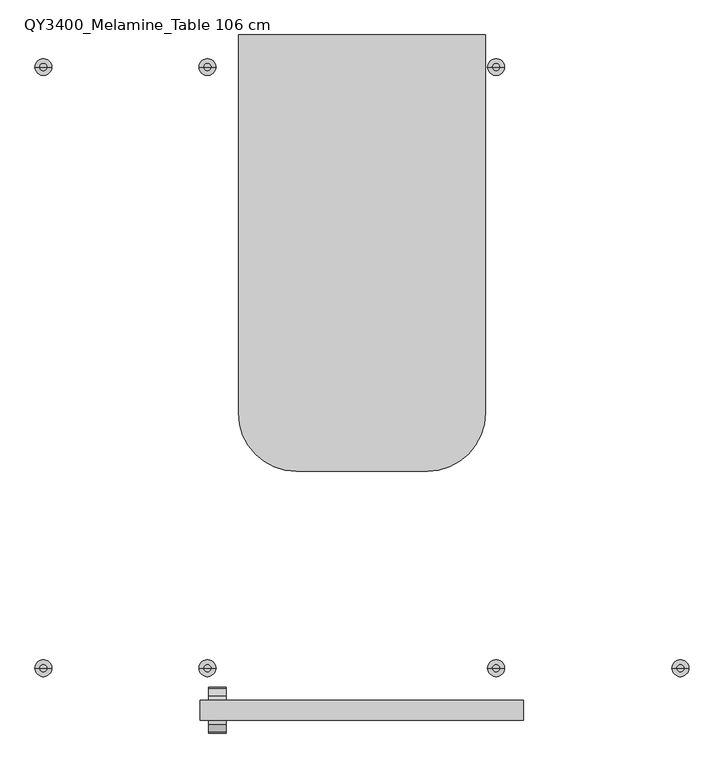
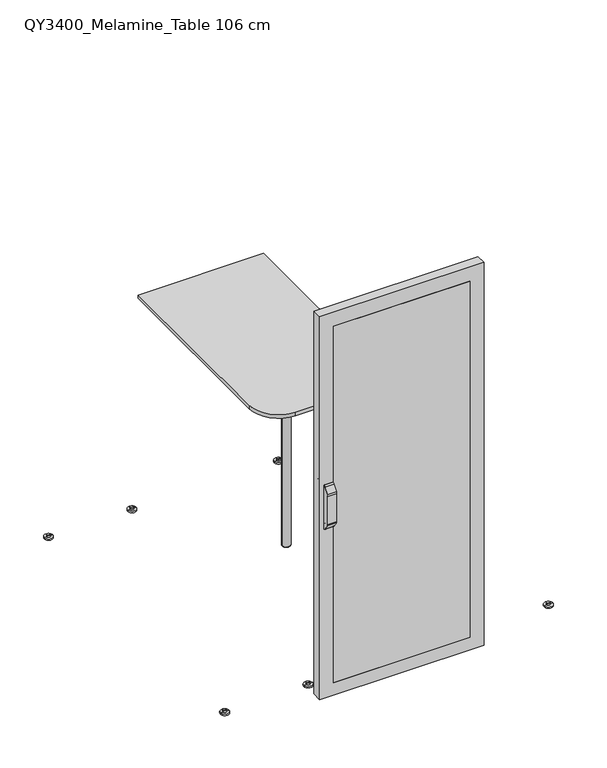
"""IFC4 building model written with IfcOpenShell, lengths in millimetres: furniture geometry, Qyos_400 : QY3400_Melamine_Table 106 cm."""

from ifc_helpers import new_model, si_unit, point, frame, frame_2d, origin, origin_with_axes, place, context, project, spatial, polyline, circle_curve, ellipse_curve, trimmed, segment, composite_curve, outline, extrude, source, transform, mapped, element, save
from ifc_brep_helpers import plane_surface, cylinder_surface, revolved_surface, advanced_brep


def qy3400_melamine_table_106_cm_9113aa5f(model_context):
    return source(origin(), model_context, "Body", "SolidModel", [
        advanced_brep(
        [(-374.085107, -970.6314016, 980.9779398), (-374.085107, -970.6314016, 985.9647191), (-374.085107, -982.9469969, 991.7354618), (-374.085107, -1000.0438473, 1019.0961419), (-374.085107, -1002.6320377, 1028.7554001), (-374.085107, -1002.6320377, 1173.7554001), (-374.085107, -998.2020658, 1196.5456299), (-374.085107, -981.4262787, 1221.4167571), (-374.085107, -970.6314016, 1224.0702851), (-374.085107, -970.6314016, 1230.9669096), (-374.085107, -982.162848, 1226.3079029), (-374.085107, -1002.7819627, 1194.5572505), (-374.085107, -1005.5, 1186.1919919), (-374.085107, -1005.5, 1025.2), (-374.085107, -1002.5610872, 1017.1254034), (-374.085107, -982.1968679, 985.7672556), (-422.0329647, -970.6314016, 1230.9669096), (-422.0329647, -970.6314016, 980.9779398), (-422.0329647, -982.1968679, 985.7672556), (-422.0329647, -1002.5610872, 1017.1254034), (-422.0329647, -1005.5, 1025.2), (-422.0329647, -1005.5, 1186.1919919), (-422.0329647, -1002.7819627, 1194.5572505), (-422.0329647, -982.162848, 1226.3079029), (-419.3636893, -970.6314016, 1224.0702851), (-419.3636893, -970.6314016, 985.9647191), (-419.3636893, -982.9469969, 991.7354618), (-419.3636893, -981.4262787, 1221.4167571), (-419.3636893, -998.2020658, 1196.5456299), (-419.3636893, -1002.6320377, 1173.7554001), (-419.3636893, -1002.6320377, 1028.7554001), (-419.3636893, -1000.0438473, 1019.0961419)],
        [
            (0, 1),
            (1, 2, circle_curve(frame((-374.085107, -970.4805644, 1002.3136249), z_axis=(-1.0, 0.0, 0.0), x_axis=(0.0, -1.0, 0.0)), 16.3496016)),
            (2, 3, circle_curve(frame((-374.085107, 675.4570487, 2047.0433119), z_axis=(-1.0, 0.0, 0.0), x_axis=(0.0, -1.0, 0.0)), 1965.7005461)),
            (3, 4, circle_curve(frame((-374.085107, -985.0644692, 1028.286235), z_axis=(-1.0, 0.0, 0.0), x_axis=(0.0, -1.0, 0.0)), 17.5738323)),
            (4, 5),
            (5, 6, circle_curve(frame((-374.085107, -941.7942676, 1173.7554001), z_axis=(-1.0, 0.0, 0.0), x_axis=(0.0, -1.0, 0.0)), 60.8377701)),
            (6, 7, circle_curve(frame((-374.085107, -1257.3576761, 1389.4415655), z_axis=(1.0, 0.0, 0.0), x_axis=(0.0, -1.0, 0.0)), 323.0641922)),
            (7, 8, circle_curve(frame((-374.085107, -970.6314016, 1200.7860796), z_axis=(-1.0, 0.0, 0.0), x_axis=(0.0, -1.0, 0.0)), 23.2842055)),
            (8, 9),
            (9, 10, circle_curve(frame((-374.085107, -972.4087289, 1218.7657801), z_axis=(1.0, 0.0, 0.0), x_axis=(0.0, -1.0, 0.0)), 12.3299009)),
            (10, 11, circle_curve(frame((-374.085107, -373.9237769, 808.7424006), z_axis=(1.0, 0.0, 0.0), x_axis=(0.0, -1.0, 0.0)), 737.777552)),
            (11, 12, circle_curve(frame((-374.085107, -986.7589098, 1184.7268438), z_axis=(1.0, 0.0, 0.0), x_axis=(0.0, -1.0, 0.0)), 18.7982744)),
            (12, 13),
            (13, 14, circle_curve(frame((-374.085107, -958.525418, 1037.7252129), z_axis=(1.0, 0.0, 0.0), x_axis=(0.0, -1.0, 0.0)), 48.615762)),
            (14, 15, circle_curve(frame((-374.085107, -605.5394908, 1252.6628295), z_axis=(1.0, 0.0, 0.0), x_axis=(0.0, -1.0, 0.0)), 461.6319174)),
            (15, 0, circle_curve(frame((-374.085107, -972.6091735, 992.560998), z_axis=(1.0, 0.0, 0.0), x_axis=(0.0, -1.0, 0.0)), 11.7506945)),
            (16, 17),
            (17, 18, circle_curve(frame((-422.0329647, -972.6091735, 992.560998), z_axis=(-1.0, 0.0, 0.0), x_axis=(0.0, -1.0, 0.0)), 11.7506945)),
            (18, 19, circle_curve(frame((-422.0329647, -605.5394908, 1252.6628295), z_axis=(-1.0, 0.0, 0.0), x_axis=(0.0, -1.0, 0.0)), 461.6319174)),
            (19, 20, circle_curve(frame((-422.0329647, -958.525418, 1037.7252129), z_axis=(-1.0, 0.0, 0.0), x_axis=(0.0, -1.0, 0.0)), 48.615762)),
            (20, 21),
            (21, 22, circle_curve(frame((-422.0329647, -986.7589098, 1184.7268438), z_axis=(-1.0, 0.0, 0.0), x_axis=(0.0, -1.0, 0.0)), 18.7982744)),
            (22, 23, circle_curve(frame((-422.0329647, -373.9237769, 808.7424006), z_axis=(-1.0, 0.0, 0.0), x_axis=(0.0, -1.0, 0.0)), 737.777552)),
            (23, 16, circle_curve(frame((-422.0329647, -972.4087289, 1218.7657801), z_axis=(-1.0, 0.0, 0.0), x_axis=(0.0, -1.0, 0.0)), 12.3299009)),
            (16, 9),
            (8, 24),
            (24, 25),
            (25, 1),
            (0, 17),
            (15, 18),
            (14, 19),
            (13, 20),
            (12, 21),
            (11, 22),
            (10, 23),
            (26, 25, circle_curve(frame((-419.3636893, -970.4805644, 1002.3136249), z_axis=(1.0, 0.0, 0.0), x_axis=(0.0, -1.0, 0.0)), 16.3496016)),
            (24, 27, circle_curve(frame((-419.3636893, -970.6314016, 1200.7860796), z_axis=(1.0, 0.0, 0.0), x_axis=(0.0, -1.0, 0.0)), 23.2842055)),
            (27, 28, circle_curve(frame((-419.3636893, -1257.3576761, 1389.4415655), z_axis=(-1.0, 0.0, 0.0), x_axis=(0.0, -1.0, 0.0)), 323.0641922)),
            (28, 29, circle_curve(frame((-419.3636893, -941.7942676, 1173.7554001), z_axis=(1.0, 0.0, 0.0), x_axis=(0.0, -1.0, 0.0)), 60.8377701)),
            (29, 30),
            (30, 31, circle_curve(frame((-419.3636893, -985.0644692, 1028.286235), z_axis=(1.0, 0.0, 0.0), x_axis=(0.0, -1.0, 0.0)), 17.5738323)),
            (31, 26, circle_curve(frame((-419.3636893, 675.4570487, 2047.0433119), z_axis=(1.0, 0.0, 0.0), x_axis=(0.0, -1.0, 0.0)), 1965.7005461)),
            (26, 2),
            (31, 3),
            (30, 4),
            (29, 5),
            (28, 6),
            (27, 7),
        ],
        [
            plane_surface(frame((-374.085107, -970.6314016, 980.9779398), z_axis=(1.0, 0.0, 0.0), x_axis=(0.0, 0.0, -1.0))),
            plane_surface(frame((-422.0329647, -970.6314016, 980.9779398), z_axis=(-1.0, 0.0, 0.0), x_axis=(0.0, 0.0, 1.0))),
            plane_surface(frame((-374.085107, -970.6314016, 1230.9669096), z_axis=(0.0, 1.0, 0.0), x_axis=(-1.0, 0.0, 0.0))),
            cylinder_surface(frame((-422.0329647, -972.6091735, 992.560998), z_axis=(1.0, 0.0, 0.0), x_axis=(0.0, -1.0, 0.0)), 11.7506945),
            cylinder_surface(frame((-422.0329647, -605.5394908, 1252.6628295), z_axis=(1.0, 0.0, 0.0), x_axis=(0.0, -1.0, 0.0)), 461.6319174),
            cylinder_surface(frame((-422.0329647, -958.525418, 1037.7252129), z_axis=(1.0, 0.0, 0.0), x_axis=(0.0, -1.0, 0.0)), 48.615762),
            plane_surface(frame((-374.085107, -1005.5, 1025.2), z_axis=(0.0, -1.0, 0.0), x_axis=(-1.0, 0.0, 0.0))),
            cylinder_surface(frame((-422.0329647, -986.7589098, 1184.7268438), z_axis=(1.0, 0.0, 0.0), x_axis=(0.0, -1.0, 0.0)), 18.7982744),
            cylinder_surface(frame((-422.0329647, -373.9237769, 808.7424006), z_axis=(1.0, 0.0, 0.0), x_axis=(0.0, -1.0, 0.0)), 737.777552),
            cylinder_surface(frame((-422.0329647, -972.4087289, 1218.7657801), z_axis=(1.0, 0.0, 0.0), x_axis=(0.0, -1.0, 0.0)), 12.3299009),
            plane_surface(frame((-419.3636893, -956.7185794, 1224.0702851), z_axis=(1.0, 0.0, 0.0), x_axis=(0.0, 0.0, 1.0))),
            revolved_surface(polyline([(-374.085107, -986.8301660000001, 1002.3136249), (-419.3636893, -986.8301660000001, 1002.3136249)]), (-419.3636893, -970.4805644, 1002.3136249), (1.0, 0.0, 0.0)),
            revolved_surface(polyline([(-374.085107, -1290.2434974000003, 2047.0433119), (-419.3636893, -1290.2434974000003, 2047.0433119)]), (-419.3636893, 675.4570487, 2047.0433119), (1.0, 0.0, 0.0)),
            revolved_surface(polyline([(-374.085107, -1002.6383015, 1028.286235), (-419.3636893, -1002.6383015, 1028.286235)]), (-419.3636893, -985.0644692, 1028.286235), (1.0, 0.0, 0.0)),
            plane_surface(frame((-366.879078, -1002.6320377, 1028.7554001), z_axis=(0.0, 1.0, 0.0), x_axis=(-1.0, 0.0, 0.0))),
            revolved_surface(polyline([(-374.085107, -1002.6320377, 1173.7554001), (-419.3636893, -1002.6320377, 1173.7554001)]), (-419.3636893, -941.7942676, 1173.7554001), (1.0, 0.0, 0.0)),
            cylinder_surface(frame((-419.3636893, -1257.3576761, 1389.4415655), z_axis=(-1.0, 0.0, 0.0), x_axis=(0.0, -1.0, 0.0)), 323.0641922),
            revolved_surface(polyline([(-374.085107, -993.9156071, 1200.7860796), (-419.3636893, -993.9156071, 1200.7860796)]), (-419.3636893, -970.6314016, 1200.7860796), (1.0, 0.0, 0.0)),
        ],
        [
            (0, [[1, 2, 3, 4, 5, 6, 7, 8, 9, 10, 11, 12, 13, 14, 15, 16]]),
            (1, [[17, 18, 19, 20, 21, 22, 23, 24]]),
            (2, [[25, -9, 26, 27, 28, -1, 29, -17]]),
            (3, [[30, -18, -29, -16]]),
            (4, [[31, -19, -30, -15]]),
            (5, [[32, -20, -31, -14]]),
            (6, [[33, -21, -32, -13]]),
            (7, [[34, -22, -33, -12]]),
            (8, [[35, -23, -34, -11]]),
            (9, [[-25, -24, -35, -10]]),
            (10, [[36, -27, 37, 38, 39, 40, 41, 42]]),
            (11, [[43, -2, -28, -36]]),
            (12, [[44, -3, -43, -42]]),
            (13, [[45, -4, -44, -41]]),
            (14, [[46, -5, -45, -40]]),
            (15, [[47, -6, -46, -39]]),
            (16, [[48, -7, -47, -38]]),
            (17, [[-26, -8, -48, -37]]),
        ],
    ),
        extrude(outline(composite_curve([segment(polyline([(1230.9669096, -377.0853832), (1230.9669096, -417.0486701)]), True, "CONTINUOUS"), segment(trimmed(circle_curve(frame_2d((1225.973762, -417.0486701)), 4.9931477), [point((1230.9669096, -417.0486701))], [point((1225.973762, -422.0418178))], False, "CARTESIAN"), True, "CONTINUOUS"), segment(polyline([(1225.973762, -422.0418178), (985.9710874, -422.0418178)]), True, "CONTINUOUS"), segment(trimmed(circle_curve(frame_2d((985.9710874, -417.0486701)), 4.9931477), [point((985.9710874, -422.0418178))], [point((980.9779398, -417.0486701))], False, "CARTESIAN"), True, "CONTINUOUS"), segment(polyline([(980.9779398, -417.0486701), (980.9779398, -377.0831887)]), True, "CONTINUOUS"), segment(trimmed(circle_curve(frame_2d((983.9760215, -377.0831887)), 2.9980817), [point((980.9779398, -377.0831887))], [point((983.9760215, -374.085107))], False, "CARTESIAN"), True, "CONTINUOUS"), segment(polyline([(983.9760215, -374.085107), (985.9777208, -374.085107)]), True, "CONTINUOUS"), segment(trimmed(circle_curve(frame_2d((985.9777208, -376.3357001)), 2.2505931), [point((985.9777208, -374.085107))], [point((988.1941223, -375.9448887))], False, "CARTESIAN"), True, "CONTINUOUS"), segment(trimmed(circle_curve(frame_2d((1002.686839, -375.1402608)), 14.5150358), [point((988.1941223, -375.9448887))], [point((999.6402401, -389.331966))], True, "CARTESIAN"), True, "CONTINUOUS"), segment(trimmed(circle_curve(frame_2d((999.3564071, -397.3512428)), 8.0242982), [point((999.6402401, -389.331966))], [point((1007.3803501, -397.4267349))], False, "CARTESIAN"), True, "CONTINUOUS"), segment(trimmed(circle_curve(frame_2d((984.8527266, -400.9632944)), 22.803532), [point((1007.3803501, -397.4267349))], [point((1007.3098217, -404.9230861))], False, "CARTESIAN"), True, "CONTINUOUS"), segment(trimmed(circle_curve(frame_2d((1018.7344643, -406.9375589)), 11.600886), [point((1007.3098217, -404.9230861))], [point((1018.7344643, -418.5384449))], True, "CARTESIAN"), True, "CONTINUOUS"), segment(polyline([(1018.7344643, -418.5384449), (1193.2103851, -418.5384449)]), True, "CONTINUOUS"), segment(trimmed(circle_curve(frame_2d((1193.2103851, -406.5714853)), 11.9669596), [point((1193.2103851, -418.5384449))], [point((1205.1773447, -406.5714853))], True, "CARTESIAN"), True, "CONTINUOUS"), segment(polyline([(1205.1773447, -406.5714853), (1205.1773447, -398.0395804)]), True, "CONTINUOUS"), segment(trimmed(circle_curve(frame_2d((1213.8757406, -398.0395804)), 8.6983958), [point((1205.1773447, -398.0395804))], [point((1212.36528, -389.4733327))], False, "CARTESIAN"), True, "CONTINUOUS"), segment(trimmed(circle_curve(frame_2d((1209.9037954, -375.5135599)), 14.1751248), [point((1212.36528, -389.4733327))], [point((1224.0702851, -376.0082646))], True, "CARTESIAN"), True, "CONTINUOUS"), segment(trimmed(circle_curve(frame_2d((1225.9934427, -376.0082646)), 1.9231576), [point((1224.0702851, -376.0082646))], [point((1225.9934427, -374.085107))], False, "CARTESIAN"), True, "CONTINUOUS"), segment(polyline([(1225.9934427, -374.085107), (1227.9666334, -374.085107)]), True, "CONTINUOUS"), segment(trimmed(circle_curve(frame_2d((1227.9666334, -377.0853832)), 3.0002762), [point((1227.9666334, -374.085107))], [point((1230.9669096, -377.0853832))], False, "CARTESIAN"), True, "CONTINUOUS")], self_intersect=False)), frame((0.0, -970.6314016, 0.0), z_axis=(0.0, 1.0, 0.0), x_axis=(0.0, 0.0, 1.0)), (0.0, 0.0, 1.0), 0.6314016),
        advanced_brep(
        [(-374.085107, -914.3642803, 980.9779398), (-374.085107, -902.798814, 985.7672556), (-374.085107, -882.4345947, 1017.1254034), (-374.085107, -879.4956819, 1025.2), (-374.085107, -879.4956819, 1186.1919919), (-374.085107, -882.2137192, 1194.5572505), (-374.085107, -902.8328339, 1226.3079029), (-374.085107, -914.3642803, 1230.9669096), (-374.085107, -914.3642803, 1224.0702851), (-374.085107, -903.5694032, 1221.4167571), (-374.085107, -886.7936161, 1196.5456299), (-374.085107, -882.3636441, 1173.7554001), (-374.085107, -882.3636441, 1028.7554001), (-374.085107, -884.9518346, 1019.0961419), (-374.085107, -902.048685, 991.7354618), (-374.085107, -914.3642803, 985.9647191), (-422.0329647, -914.3642803, 1230.9669096), (-422.0329647, -902.8328339, 1226.3079029), (-422.0329647, -882.2137192, 1194.5572505), (-422.0329647, -879.4956819, 1186.1919919), (-422.0329647, -879.4956819, 1025.2), (-422.0329647, -882.4345947, 1017.1254034), (-422.0329647, -902.798814, 985.7672556), (-422.0329647, -914.3642803, 980.9779398), (-419.3636893, -914.3642803, 985.9647191), (-419.3636893, -914.3642803, 1224.0702851), (-419.3636893, -902.048685, 991.7354618), (-419.3636893, -884.9518346, 1019.0961419), (-419.3636893, -882.3636441, 1028.7554001), (-419.3636893, -882.3636441, 1173.7554001), (-419.3636893, -886.7936161, 1196.5456299), (-419.3636893, -903.5694032, 1221.4167571)],
        [
            (0, 1, circle_curve(frame((-374.085107, -912.3865084, 992.560998), z_axis=(1.0, 0.0, 0.0), x_axis=(0.0, 1.0, 0.0)), 11.7506945)),
            (1, 2, circle_curve(frame((-374.085107, -1279.4561911, 1252.6628295), z_axis=(1.0, 0.0, 0.0), x_axis=(0.0, 1.0, 0.0)), 461.6319174)),
            (2, 3, circle_curve(frame((-374.085107, -926.4702639, 1037.7252129), z_axis=(1.0, 0.0, 0.0), x_axis=(0.0, 1.0, 0.0)), 48.615762)),
            (3, 4),
            (4, 5, circle_curve(frame((-374.085107, -898.236772, 1184.7268438), z_axis=(1.0, 0.0, 0.0), x_axis=(0.0, 1.0, 0.0)), 18.7982744)),
            (5, 6, circle_curve(frame((-374.085107, -1511.071905, 808.7424006), z_axis=(1.0, 0.0, 0.0), x_axis=(0.0, 1.0, 0.0)), 737.777552)),
            (6, 7, circle_curve(frame((-374.085107, -912.586953, 1218.7657801), z_axis=(1.0, 0.0, 0.0), x_axis=(0.0, 1.0, 0.0)), 12.3299009)),
            (7, 8),
            (8, 9, circle_curve(frame((-374.085107, -914.3642803, 1200.7860796), z_axis=(-1.0, 0.0, 0.0), x_axis=(0.0, 1.0, 0.0)), 23.2842055)),
            (9, 10, circle_curve(frame((-374.085107, -627.6380058, 1389.4415655), z_axis=(1.0, 0.0, 0.0), x_axis=(0.0, 1.0, 0.0)), 323.0641922)),
            (10, 11, circle_curve(frame((-374.085107, -943.2014142, 1173.7554001), z_axis=(-1.0, 0.0, 0.0), x_axis=(0.0, 1.0, 0.0)), 60.8377701)),
            (11, 12),
            (12, 13, circle_curve(frame((-374.085107, -899.9312127, 1028.286235), z_axis=(-1.0, 0.0, 0.0), x_axis=(0.0, 1.0, 0.0)), 17.5738323)),
            (13, 14, circle_curve(frame((-374.085107, -2560.4527306, 2047.0433119), z_axis=(-1.0, 0.0, 0.0), x_axis=(0.0, 1.0, 0.0)), 1965.7005461)),
            (14, 15, circle_curve(frame((-374.085107, -914.5151175, 1002.3136249), z_axis=(-1.0, 0.0, 0.0), x_axis=(0.0, 1.0, 0.0)), 16.3496016)),
            (15, 0),
            (16, 17, circle_curve(frame((-422.0329647, -912.586953, 1218.7657801), z_axis=(-1.0, 0.0, 0.0), x_axis=(0.0, 1.0, 0.0)), 12.3299009)),
            (17, 18, circle_curve(frame((-422.0329647, -1511.071905, 808.7424006), z_axis=(-1.0, 0.0, 0.0), x_axis=(0.0, 1.0, 0.0)), 737.777552)),
            (18, 19, circle_curve(frame((-422.0329647, -898.236772, 1184.7268438), z_axis=(-1.0, 0.0, 0.0), x_axis=(0.0, 1.0, 0.0)), 18.7982744)),
            (19, 20),
            (20, 21, circle_curve(frame((-422.0329647, -926.4702639, 1037.7252129), z_axis=(-1.0, 0.0, 0.0), x_axis=(0.0, 1.0, 0.0)), 48.615762)),
            (21, 22, circle_curve(frame((-422.0329647, -1279.4561911, 1252.6628295), z_axis=(-1.0, 0.0, 0.0), x_axis=(0.0, 1.0, 0.0)), 461.6319174)),
            (22, 23, circle_curve(frame((-422.0329647, -912.3865084, 992.560998), z_axis=(-1.0, 0.0, 0.0), x_axis=(0.0, 1.0, 0.0)), 11.7506945)),
            (23, 16),
            (23, 0),
            (15, 24),
            (24, 25),
            (25, 8),
            (7, 16),
            (22, 1),
            (21, 2),
            (20, 3),
            (19, 4),
            (18, 5),
            (17, 6),
            (26, 27, circle_curve(frame((-419.3636893, -2560.4527306, 2047.0433119), z_axis=(1.0, 0.0, 0.0), x_axis=(0.0, 1.0, 0.0)), 1965.7005461)),
            (27, 28, circle_curve(frame((-419.3636893, -899.9312127, 1028.286235), z_axis=(1.0, 0.0, 0.0), x_axis=(0.0, 1.0, 0.0)), 17.5738323)),
            (28, 29),
            (29, 30, circle_curve(frame((-419.3636893, -943.2014142, 1173.7554001), z_axis=(1.0, 0.0, 0.0), x_axis=(0.0, 1.0, 0.0)), 60.8377701)),
            (30, 31, circle_curve(frame((-419.3636893, -627.6380058, 1389.4415655), z_axis=(-1.0, 0.0, 0.0), x_axis=(0.0, 1.0, 0.0)), 323.0641922)),
            (31, 25, circle_curve(frame((-419.3636893, -914.3642803, 1200.7860796), z_axis=(1.0, 0.0, 0.0), x_axis=(0.0, 1.0, 0.0)), 23.2842055)),
            (24, 26, circle_curve(frame((-419.3636893, -914.5151175, 1002.3136249), z_axis=(1.0, 0.0, 0.0), x_axis=(0.0, 1.0, 0.0)), 16.3496016)),
            (14, 26),
            (13, 27),
            (12, 28),
            (11, 29),
            (10, 30),
            (9, 31),
        ],
        [
            plane_surface(frame((-374.085107, -914.3642803, 980.9779398), z_axis=(1.0, 0.0, 0.0), x_axis=(0.0, 0.0, -1.0))),
            plane_surface(frame((-422.0329647, -914.3642803, 980.9779398), z_axis=(-1.0, 0.0, 0.0), x_axis=(0.0, 0.0, 1.0))),
            plane_surface(frame((-374.085107, -914.3642803, 1230.9669096), z_axis=(0.0, -1.0, 0.0), x_axis=(-1.0, 0.0, 0.0))),
            cylinder_surface(frame((-422.0329647, -912.3865084, 992.560998), z_axis=(1.0, 0.0, 0.0), x_axis=(0.0, 1.0, 0.0)), 11.7506945),
            cylinder_surface(frame((-422.0329647, -1279.4561911, 1252.6628295), z_axis=(1.0, 0.0, 0.0), x_axis=(0.0, 1.0, 0.0)), 461.6319174),
            cylinder_surface(frame((-422.0329647, -926.4702639, 1037.7252129), z_axis=(1.0, 0.0, 0.0), x_axis=(0.0, 1.0, 0.0)), 48.615762),
            plane_surface(frame((-374.085107, -879.4956819, 1025.2), z_axis=(0.0, 1.0, 0.0), x_axis=(-1.0, 0.0, 0.0))),
            cylinder_surface(frame((-422.0329647, -898.236772, 1184.7268438), z_axis=(1.0, 0.0, 0.0), x_axis=(0.0, 1.0, 0.0)), 18.7982744),
            cylinder_surface(frame((-422.0329647, -1511.071905, 808.7424006), z_axis=(1.0, 0.0, 0.0), x_axis=(0.0, 1.0, 0.0)), 737.777552),
            cylinder_surface(frame((-422.0329647, -912.586953, 1218.7657801), z_axis=(1.0, 0.0, 0.0), x_axis=(0.0, 1.0, 0.0)), 12.3299009),
            plane_surface(frame((-419.3636893, -928.2771024, 1224.0702851), z_axis=(1.0, 0.0, 0.0), x_axis=(0.0, 0.0, 1.0))),
            revolved_surface(polyline([(-374.085107, -898.1655159, 1002.3136249), (-419.3636893, -898.1655159, 1002.3136249)]), (-419.3636893, -914.5151175, 1002.3136249), (1.0, 0.0, 0.0)),
            revolved_surface(polyline([(-374.085107, -594.7521844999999, 2047.0433119), (-419.3636893, -594.7521844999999, 2047.0433119)]), (-419.3636893, -2560.4527306, 2047.0433119), (1.0, 0.0, 0.0)),
            revolved_surface(polyline([(-374.085107, -882.3573803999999, 1028.286235), (-419.3636893, -882.3573803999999, 1028.286235)]), (-419.3636893, -899.9312127, 1028.286235), (1.0, 0.0, 0.0)),
            plane_surface(frame((-366.879078, -882.3636441, 1028.7554001), z_axis=(0.0, -1.0, 0.0), x_axis=(-1.0, 0.0, 0.0))),
            revolved_surface(polyline([(-374.085107, -882.3636441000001, 1173.7554001), (-419.3636893, -882.3636441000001, 1173.7554001)]), (-419.3636893, -943.2014142, 1173.7554001), (1.0, 0.0, 0.0)),
            cylinder_surface(frame((-419.3636893, -627.6380058, 1389.4415655), z_axis=(-1.0, 0.0, 0.0), x_axis=(0.0, 1.0, 0.0)), 323.0641922),
            revolved_surface(polyline([(-374.085107, -891.0800748, 1200.7860796), (-419.3636893, -891.0800748, 1200.7860796)]), (-419.3636893, -914.3642803, 1200.7860796), (1.0, 0.0, 0.0)),
        ],
        [
            (0, [[1, 2, 3, 4, 5, 6, 7, 8, 9, 10, 11, 12, 13, 14, 15, 16]]),
            (1, [[17, 18, 19, 20, 21, 22, 23, 24]]),
            (2, [[-24, 25, -16, 26, 27, 28, -8, 29]]),
            (3, [[-1, -25, -23, 30]]),
            (4, [[-2, -30, -22, 31]]),
            (5, [[-3, -31, -21, 32]]),
            (6, [[-4, -32, -20, 33]]),
            (7, [[-5, -33, -19, 34]]),
            (8, [[-6, -34, -18, 35]]),
            (9, [[-7, -35, -17, -29]]),
            (10, [[36, 37, 38, 39, 40, 41, -27, 42]]),
            (11, [[-42, -26, -15, 43]]),
            (12, [[-36, -43, -14, 44]]),
            (13, [[-37, -44, -13, 45]]),
            (14, [[-38, -45, -12, 46]]),
            (15, [[-39, -46, -11, 47]]),
            (16, [[-40, -47, -10, 48]]),
            (17, [[-41, -48, -9, -28]]),
        ],
    ),
        extrude(outline(composite_curve([segment(polyline([(1230.9669096, -377.0853832), (1230.9669096, -417.0486701)]), True, "CONTINUOUS"), segment(trimmed(circle_curve(frame_2d((1225.973762, -417.0486701)), 4.9931477), [point((1230.9669096, -417.0486701))], [point((1225.973762, -422.0418178))], False, "CARTESIAN"), True, "CONTINUOUS"), segment(polyline([(1225.973762, -422.0418178), (985.9710874, -422.0418178)]), True, "CONTINUOUS"), segment(trimmed(circle_curve(frame_2d((985.9710874, -417.0486701)), 4.9931477), [point((985.9710874, -422.0418178))], [point((980.9779398, -417.0486701))], False, "CARTESIAN"), True, "CONTINUOUS"), segment(polyline([(980.9779398, -417.0486701), (980.9779398, -377.0831887)]), True, "CONTINUOUS"), segment(trimmed(circle_curve(frame_2d((983.9760215, -377.0831887)), 2.9980817), [point((980.9779398, -377.0831887))], [point((983.9760215, -374.085107))], False, "CARTESIAN"), True, "CONTINUOUS"), segment(polyline([(983.9760215, -374.085107), (985.9777208, -374.085107)]), True, "CONTINUOUS"), segment(trimmed(circle_curve(frame_2d((985.9777208, -376.3357001)), 2.2505931), [point((985.9777208, -374.085107))], [point((988.1941223, -375.9448887))], False, "CARTESIAN"), True, "CONTINUOUS"), segment(trimmed(circle_curve(frame_2d((1002.686839, -375.1402608)), 14.5150358), [point((988.1941223, -375.9448887))], [point((999.6402401, -389.331966))], True, "CARTESIAN"), True, "CONTINUOUS"), segment(trimmed(circle_curve(frame_2d((999.3564071, -397.3512428)), 8.0242982), [point((999.6402401, -389.331966))], [point((1007.3803501, -397.4267349))], False, "CARTESIAN"), True, "CONTINUOUS"), segment(trimmed(circle_curve(frame_2d((984.8527266, -400.9632944)), 22.803532), [point((1007.3803501, -397.4267349))], [point((1007.3098217, -404.9230861))], False, "CARTESIAN"), True, "CONTINUOUS"), segment(trimmed(circle_curve(frame_2d((1018.7344643, -406.9375589)), 11.600886), [point((1007.3098217, -404.9230861))], [point((1018.7344643, -418.5384449))], True, "CARTESIAN"), True, "CONTINUOUS"), segment(polyline([(1018.7344643, -418.5384449), (1193.2103851, -418.5384449)]), True, "CONTINUOUS"), segment(trimmed(circle_curve(frame_2d((1193.2103851, -406.5714853)), 11.9669596), [point((1193.2103851, -418.5384449))], [point((1205.1773447, -406.5714853))], True, "CARTESIAN"), True, "CONTINUOUS"), segment(polyline([(1205.1773447, -406.5714853), (1205.1773447, -398.0395804)]), True, "CONTINUOUS"), segment(trimmed(circle_curve(frame_2d((1213.8757406, -398.0395804)), 8.6983958), [point((1205.1773447, -398.0395804))], [point((1212.36528, -389.4733327))], False, "CARTESIAN"), True, "CONTINUOUS"), segment(trimmed(circle_curve(frame_2d((1209.9037954, -375.5135599)), 14.1751248), [point((1212.36528, -389.4733327))], [point((1224.0702851, -376.0082646))], True, "CARTESIAN"), True, "CONTINUOUS"), segment(trimmed(circle_curve(frame_2d((1225.9934427, -376.0082646)), 1.9231576), [point((1224.0702851, -376.0082646))], [point((1225.9934427, -374.085107))], False, "CARTESIAN"), True, "CONTINUOUS"), segment(polyline([(1225.9934427, -374.085107), (1227.9666334, -374.085107)]), True, "CONTINUOUS"), segment(trimmed(circle_curve(frame_2d((1227.9666334, -377.0853832)), 3.0002762), [point((1227.9666334, -374.085107))], [point((1230.9669096, -377.0853832))], False, "CARTESIAN"), True, "CONTINUOUS")], self_intersect=False)), frame((0.0, -914.9956819, 0.0), z_axis=(0.0, 1.0, 0.0), x_axis=(0.0, 0.0, 1.0)), (0.0, 0.0, 1.0), 0.6314016),
        extrude(outline(polyline([(369.5, -970.0), (-369.5, -970.0), (-369.5, -965.0), (369.5, -965.0), (369.5, -970.0)])), frame((0.0, 0.0, 82.0), z_axis=(0.0, 0.0, 1.0), x_axis=(1.0, 0.0, 0.0)), (0.0, 0.0, 1.0), 2040.1),
        extrude(outline(polyline([(10.0, -445.0), (10.0, 445.0), (2202.1, 445.0), (2202.1, -445.0), (10.0, -445.0)]), holes=[polyline([(82.0, 369.5), (82.0, -369.5), (2122.1, -369.5), (2122.1, 369.5), (82.0, 369.5)])]), frame((0.0, -970.0, 0.0), z_axis=(0.0, 1.0, 0.0), x_axis=(0.0, 0.0, 1.0)), (0.0, 0.0, 1.0), 55.0043181),
        advanced_brep(
        [(-18.7621631, 115.0, 82.0), (18.7621631, 115.0, 82.0), (0.0, 115.0, 82.0), (-22.480604, 115.0, 85.7184409), (22.480604, 115.0, 85.7184409), (-22.480604, 115.0, 1128.0), (22.480604, 115.0, 1128.0), (0.0, 115.0, 1128.0)],
        [
            (0, 1, circle_curve(frame((0.0, 115.0, 82.0), z_axis=(0.0, 0.0, -1.0), x_axis=(1.0, 0.0, 0.0)), 18.7621631)),
            (1, 2),
            (2, 0),
            (1, 0, circle_curve(frame((0.0, 115.0, 82.0), z_axis=(0.0, 0.0, -1.0), x_axis=(1.0, 0.0, 0.0)), 18.7621631)),
            (3, 4, circle_curve(frame((0.0, 115.0, 85.7184409), z_axis=(0.0, 0.0, -1.0), x_axis=(1.0, 0.0, 0.0)), 22.480604)),
            (4, 1, circle_curve(frame((16.4330916, 115.0, 88.0475124), z_axis=(0.0, 1.0, 0.0), x_axis=(1.0, 0.0, 0.0)), 6.4805077)),
            (0, 3, circle_curve(frame((-16.4330916, 115.0, 88.0475124), z_axis=(0.0, 1.0, 0.0), x_axis=(-1.0, 0.0, 0.0)), 6.4805077)),
            (4, 3, circle_curve(frame((0.0, 115.0, 85.7184409), z_axis=(0.0, 0.0, -1.0), x_axis=(1.0, 0.0, 0.0)), 22.480604)),
            (5, 6, circle_curve(frame((0.0, 115.0, 1128.0), z_axis=(0.0, 0.0, -1.0), x_axis=(1.0, 0.0, 0.0)), 22.480604)),
            (6, 4),
            (3, 5),
            (6, 5, circle_curve(frame((0.0, 115.0, 1128.0), z_axis=(0.0, 0.0, -1.0), x_axis=(1.0, 0.0, 0.0)), 22.480604)),
            (7, 6),
            (5, 7),
        ],
        [
            plane_surface(frame((0.0, 115.0, 82.0), z_axis=(0.0, 0.0, -1.0), x_axis=(1.0, 0.0, 0.0))),
            revolved_surface(trimmed(ellipse_curve(frame((16.4330916, 115.0, 88.0475124), z_axis=(0.0, -1.0, 0.0), x_axis=(1.0, 0.0, 0.0)), 6.4805077, 6.4805077), [point((18.7621631, 115.0, 82.0))], [point((22.480604, 115.0, 85.7184409))], True, "CARTESIAN"), (0.0, 115.0, 2322.4144888), (0.0, 0.0, 1.0)),
            cylinder_surface(frame((0.0, 115.0, 2322.4144888), z_axis=(0.0, 0.0, 1.0), x_axis=(1.0, 0.0, 0.0)), 22.480604),
            plane_surface(frame((0.0, 115.0, 1128.0), z_axis=(0.0, 0.0, 1.0), x_axis=(1.0, 0.0, 0.0))),
        ],
        [
            (0, [[1, 2, 3]]),
            (0, [[4, -3, -2]]),
            (1, [[5, 6, -1, 7]]),
            (1, [[8, -7, -4, -6]]),
            (2, [[9, 10, -5, 11]]),
            (2, [[12, -11, -8, -10]]),
            (3, [[13, -9, 14]]),
            (3, [[-14, -12, -13]]),
        ],
    ),
        extrude(outline(composite_curve([segment(polyline([(340.0, 915.0), (340.0, -125.0)]), True, "CONTINUOUS"), segment(trimmed(circle_curve(frame_2d((180.0, -125.0)), 160.0), [point((340.0, -125.0))], [point((180.0, -285.0))], False, "CARTESIAN"), True, "CONTINUOUS"), segment(polyline([(180.0, -285.0), (-180.0, -285.0)]), True, "CONTINUOUS"), segment(trimmed(circle_curve(frame_2d((-180.0, -125.0)), 160.0), [point((-180.0, -285.0))], [point((-340.0, -125.0))], False, "CARTESIAN"), True, "CONTINUOUS"), segment(polyline([(-340.0, -125.0), (-340.0, 915.0), (340.0, 915.0)]), True, "CONTINUOUS")], self_intersect=False)), frame((0.0, 0.0, 1128.0), z_axis=(0.0, 0.0, 1.0), x_axis=(1.0, 0.0, 0.0)), (0.0, 0.0, 1.0), 19.0),
        advanced_brep(
        [(346.4071662, -827.0, 0.0), (392.690095, -827.0, 0.0), (369.5486306, -827.0, 0.0), (346.4071662, -827.0, 7.0), (392.690095, -827.0, 7.0), (359.9101752, -827.0, 7.0), (379.187086, -827.0, 7.0), (359.9101752, -827.0, 17.0), (379.187086, -827.0, 17.0), (369.5486306, -827.0, 17.0)],
        [
            (0, 1, circle_curve(frame((369.5486306, -827.0, 0.0), z_axis=(0.0, 0.0, -1.0), x_axis=(1.0, 0.0, 0.0)), 23.1414644)),
            (1, 2),
            (2, 0),
            (1, 0, circle_curve(frame((369.5486306, -827.0, 0.0), z_axis=(0.0, 0.0, -1.0), x_axis=(1.0, 0.0, 0.0)), 23.1414644)),
            (3, 4, circle_curve(frame((369.5486306, -827.0, 7.0), z_axis=(0.0, 0.0, -1.0), x_axis=(1.0, 0.0, 0.0)), 23.1414644)),
            (4, 1),
            (0, 3),
            (4, 3, circle_curve(frame((369.5486306, -827.0, 7.0), z_axis=(0.0, 0.0, -1.0), x_axis=(1.0, 0.0, 0.0)), 23.1414644)),
            (5, 6, circle_curve(frame((369.5486306, -827.0, 7.0), z_axis=(0.0, 0.0, -1.0), x_axis=(1.0, 0.0, 0.0)), 9.6384554)),
            (6, 4),
            (3, 5),
            (6, 5, circle_curve(frame((369.5486306, -827.0, 7.0), z_axis=(0.0, 0.0, -1.0), x_axis=(1.0, 0.0, 0.0)), 9.6384554)),
            (7, 8, circle_curve(frame((369.5486306, -827.0, 17.0), z_axis=(0.0, 0.0, -1.0), x_axis=(1.0, 0.0, 0.0)), 9.6384554)),
            (8, 6),
            (5, 7),
            (8, 7, circle_curve(frame((369.5486306, -827.0, 17.0), z_axis=(0.0, 0.0, -1.0), x_axis=(1.0, 0.0, 0.0)), 9.6384554)),
            (9, 8),
            (7, 9),
        ],
        [
            plane_surface(frame((369.5486306, -827.0, 0.0), z_axis=(0.0, 0.0, -1.0), x_axis=(1.0, 0.0, 0.0))),
            cylinder_surface(frame((369.5486306, -827.0, 1997.4144888), z_axis=(0.0, 0.0, 1.0), x_axis=(1.0, 0.0, 0.0)), 23.1414644),
            plane_surface(frame((369.5486306, -827.0, 7.0), z_axis=(0.0, 0.0, 1.0), x_axis=(1.0, 0.0, 0.0))),
            cylinder_surface(frame((369.5486306, -827.0, 1997.4144888), z_axis=(0.0, 0.0, 1.0), x_axis=(1.0, 0.0, 0.0)), 9.6384554),
            plane_surface(frame((369.5486306, -827.0, 17.0), z_axis=(0.0, 0.0, 1.0), x_axis=(1.0, 0.0, 0.0))),
        ],
        [
            (0, [[1, 2, 3]]),
            (0, [[4, -3, -2]]),
            (1, [[5, 6, -1, 7]]),
            (1, [[8, -7, -4, -6]]),
            (2, [[9, 10, -5, 11]]),
            (2, [[12, -11, -8, -10]]),
            (3, [[13, 14, -9, 15]]),
            (3, [[16, -15, -12, -14]]),
            (4, [[17, -13, 18]]),
            (4, [[-18, -16, -17]]),
        ],
    ),
        extrude(outline(composite_curve([segment(trimmed(circle_curve(frame_2d((369.5486306, -827.0)), 23.1414644), [point((346.4071662, -827.0))], [point((392.690095, -827.0))], False, "CARTESIAN"), True, "CONTINUOUS"), segment(trimmed(circle_curve(frame_2d((369.5486306, -827.0)), 23.1414644), [point((392.690095, -827.0))], [point((346.4071662, -827.0))], False, "CARTESIAN"), True, "CONTINUOUS")], self_intersect=False)), origin_with_axes(), (0.0, 0.0, 1.0), 7.0),
        advanced_brep(
        [(346.4071662, 827.0, 0.0), (392.690095, 827.0, 0.0), (369.5486306, 827.0, 0.0), (346.4071662, 827.0, 7.0), (392.690095, 827.0, 7.0), (359.9101752, 827.0, 7.0), (379.187086, 827.0, 7.0), (359.9101752, 827.0, 17.0), (379.187086, 827.0, 17.0), (369.5486306, 827.0, 17.0)],
        [
            (0, 1, circle_curve(frame((369.5486306, 827.0, 0.0), z_axis=(0.0, 0.0, -1.0), x_axis=(1.0, 0.0, 0.0)), 23.1414644)),
            (1, 2),
            (2, 0),
            (1, 0, circle_curve(frame((369.5486306, 827.0, 0.0), z_axis=(0.0, 0.0, -1.0), x_axis=(1.0, 0.0, 0.0)), 23.1414644)),
            (3, 4, circle_curve(frame((369.5486306, 827.0, 7.0), z_axis=(0.0, 0.0, -1.0), x_axis=(1.0, 0.0, 0.0)), 23.1414644)),
            (4, 1),
            (0, 3),
            (4, 3, circle_curve(frame((369.5486306, 827.0, 7.0), z_axis=(0.0, 0.0, -1.0), x_axis=(1.0, 0.0, 0.0)), 23.1414644)),
            (5, 6, circle_curve(frame((369.5486306, 827.0, 7.0), z_axis=(0.0, 0.0, -1.0), x_axis=(1.0, 0.0, 0.0)), 9.6384554)),
            (6, 4),
            (3, 5),
            (6, 5, circle_curve(frame((369.5486306, 827.0, 7.0), z_axis=(0.0, 0.0, -1.0), x_axis=(1.0, 0.0, 0.0)), 9.6384554)),
            (7, 8, circle_curve(frame((369.5486306, 827.0, 17.0), z_axis=(0.0, 0.0, -1.0), x_axis=(1.0, 0.0, 0.0)), 9.6384554)),
            (8, 6),
            (5, 7),
            (8, 7, circle_curve(frame((369.5486306, 827.0, 17.0), z_axis=(0.0, 0.0, -1.0), x_axis=(1.0, 0.0, 0.0)), 9.6384554)),
            (9, 8),
            (7, 9),
        ],
        [
            plane_surface(frame((369.5486306, 827.0, 0.0), z_axis=(0.0, 0.0, -1.0), x_axis=(1.0, 0.0, 0.0))),
            cylinder_surface(frame((369.5486306, 827.0, 1997.4144888), z_axis=(0.0, 0.0, 1.0), x_axis=(1.0, 0.0, 0.0)), 23.1414644),
            plane_surface(frame((369.5486306, 827.0, 7.0), z_axis=(0.0, 0.0, 1.0), x_axis=(1.0, 0.0, 0.0))),
            cylinder_surface(frame((369.5486306, 827.0, 1997.4144888), z_axis=(0.0, 0.0, 1.0), x_axis=(1.0, 0.0, 0.0)), 9.6384554),
            plane_surface(frame((369.5486306, 827.0, 17.0), z_axis=(0.0, 0.0, 1.0), x_axis=(1.0, 0.0, 0.0))),
        ],
        [
            (0, [[1, 2, 3]]),
            (0, [[4, -3, -2]]),
            (1, [[5, 6, -1, 7]]),
            (1, [[8, -7, -4, -6]]),
            (2, [[9, 10, -5, 11]]),
            (2, [[12, -11, -8, -10]]),
            (3, [[13, 14, -9, 15]]),
            (3, [[16, -15, -12, -14]]),
            (4, [[17, -13, 18]]),
            (4, [[-18, -16, -17]]),
        ],
    ),
        extrude(outline(composite_curve([segment(trimmed(circle_curve(frame_2d((369.5486306, 827.0)), 23.1414644), [point((346.4071662, 827.0))], [point((392.690095, 827.0))], False, "CARTESIAN"), True, "CONTINUOUS"), segment(trimmed(circle_curve(frame_2d((369.5486306, 827.0)), 23.1414644), [point((392.690095, 827.0))], [point((346.4071662, 827.0))], False, "CARTESIAN"), True, "CONTINUOUS")], self_intersect=False)), origin_with_axes(), (0.0, 0.0, 1.0), 7.0),
        advanced_brep(
        [(853.8585356, -827.0, 0.0), (900.1414644, -827.0, 0.0), (877.0, -827.0, 0.0), (853.8585356, -827.0, 7.0), (900.1414644, -827.0, 7.0), (867.3615446, -827.0, 7.0), (886.6384554, -827.0, 7.0), (867.3615446, -827.0, 17.0), (886.6384554, -827.0, 17.0), (877.0, -827.0, 17.0)],
        [
            (0, 1, circle_curve(frame((877.0, -827.0, 0.0), z_axis=(0.0, 0.0, -1.0), x_axis=(1.0, 0.0, 0.0)), 23.1414644)),
            (1, 2),
            (2, 0),
            (1, 0, circle_curve(frame((877.0, -827.0, 0.0), z_axis=(0.0, 0.0, -1.0), x_axis=(1.0, 0.0, 0.0)), 23.1414644)),
            (3, 4, circle_curve(frame((877.0, -827.0, 7.0), z_axis=(0.0, 0.0, -1.0), x_axis=(1.0, 0.0, 0.0)), 23.1414644)),
            (4, 1),
            (0, 3),
            (4, 3, circle_curve(frame((877.0, -827.0, 7.0), z_axis=(0.0, 0.0, -1.0), x_axis=(1.0, 0.0, 0.0)), 23.1414644)),
            (5, 6, circle_curve(frame((877.0, -827.0, 7.0), z_axis=(0.0, 0.0, -1.0), x_axis=(1.0, 0.0, 0.0)), 9.6384554)),
            (6, 4),
            (3, 5),
            (6, 5, circle_curve(frame((877.0, -827.0, 7.0), z_axis=(0.0, 0.0, -1.0), x_axis=(1.0, 0.0, 0.0)), 9.6384554)),
            (7, 8, circle_curve(frame((877.0, -827.0, 17.0), z_axis=(0.0, 0.0, -1.0), x_axis=(1.0, 0.0, 0.0)), 9.6384554)),
            (8, 6),
            (5, 7),
            (8, 7, circle_curve(frame((877.0, -827.0, 17.0), z_axis=(0.0, 0.0, -1.0), x_axis=(1.0, 0.0, 0.0)), 9.6384554)),
            (9, 8),
            (7, 9),
        ],
        [
            plane_surface(frame((877.0, -827.0, 0.0), z_axis=(0.0, 0.0, -1.0), x_axis=(1.0, 0.0, 0.0))),
            cylinder_surface(frame((877.0, -827.0, 1997.4144888), z_axis=(0.0, 0.0, 1.0), x_axis=(1.0, 0.0, 0.0)), 23.1414644),
            plane_surface(frame((877.0, -827.0, 7.0), z_axis=(0.0, 0.0, 1.0), x_axis=(1.0, 0.0, 0.0))),
            cylinder_surface(frame((877.0, -827.0, 1997.4144888), z_axis=(0.0, 0.0, 1.0), x_axis=(1.0, 0.0, 0.0)), 9.6384554),
            plane_surface(frame((877.0, -827.0, 17.0), z_axis=(0.0, 0.0, 1.0), x_axis=(1.0, 0.0, 0.0))),
        ],
        [
            (0, [[1, 2, 3]]),
            (0, [[4, -3, -2]]),
            (1, [[5, 6, -1, 7]]),
            (1, [[8, -7, -4, -6]]),
            (2, [[9, 10, -5, 11]]),
            (2, [[12, -11, -8, -10]]),
            (3, [[13, 14, -9, 15]]),
            (3, [[16, -15, -12, -14]]),
            (4, [[17, -13, 18]]),
            (4, [[-18, -16, -17]]),
        ],
    ),
        extrude(outline(composite_curve([segment(trimmed(circle_curve(frame_2d((877.0, -827.0)), 23.1414644), [point((853.8585356, -827.0))], [point((900.1414644, -827.0))], False, "CARTESIAN"), True, "CONTINUOUS"), segment(trimmed(circle_curve(frame_2d((877.0, -827.0)), 23.1414644), [point((900.1414644, -827.0))], [point((853.8585356, -827.0))], False, "CARTESIAN"), True, "CONTINUOUS")], self_intersect=False)), origin_with_axes(), (0.0, 0.0, 1.0), 7.0),
        advanced_brep(
        [(-448.1414644, -827.0, 0.0), (-401.8585356, -827.0, 0.0), (-425.0, -827.0, 0.0), (-448.1414644, -827.0, 7.0), (-401.8585356, -827.0, 7.0), (-434.6384554, -827.0, 7.0), (-415.3615446, -827.0, 7.0), (-434.6384554, -827.0, 17.0), (-415.3615446, -827.0, 17.0), (-425.0, -827.0, 17.0)],
        [
            (0, 1, circle_curve(frame((-425.0, -827.0, 0.0), z_axis=(0.0, 0.0, -1.0), x_axis=(1.0, 0.0, 0.0)), 23.1414644)),
            (1, 2),
            (2, 0),
            (1, 0, circle_curve(frame((-425.0, -827.0, 0.0), z_axis=(0.0, 0.0, -1.0), x_axis=(1.0, 0.0, 0.0)), 23.1414644)),
            (3, 4, circle_curve(frame((-425.0, -827.0, 7.0), z_axis=(0.0, 0.0, -1.0), x_axis=(1.0, 0.0, 0.0)), 23.1414644)),
            (4, 1),
            (0, 3),
            (4, 3, circle_curve(frame((-425.0, -827.0, 7.0), z_axis=(0.0, 0.0, -1.0), x_axis=(1.0, 0.0, 0.0)), 23.1414644)),
            (5, 6, circle_curve(frame((-425.0, -827.0, 7.0), z_axis=(0.0, 0.0, -1.0), x_axis=(1.0, 0.0, 0.0)), 9.6384554)),
            (6, 4),
            (3, 5),
            (6, 5, circle_curve(frame((-425.0, -827.0, 7.0), z_axis=(0.0, 0.0, -1.0), x_axis=(1.0, 0.0, 0.0)), 9.6384554)),
            (7, 8, circle_curve(frame((-425.0, -827.0, 17.0), z_axis=(0.0, 0.0, -1.0), x_axis=(1.0, 0.0, 0.0)), 9.6384554)),
            (8, 6),
            (5, 7),
            (8, 7, circle_curve(frame((-425.0, -827.0, 17.0), z_axis=(0.0, 0.0, -1.0), x_axis=(1.0, 0.0, 0.0)), 9.6384554)),
            (9, 8),
            (7, 9),
        ],
        [
            plane_surface(frame((-425.0, -827.0, 0.0), z_axis=(0.0, 0.0, -1.0), x_axis=(1.0, 0.0, 0.0))),
            cylinder_surface(frame((-425.0, -827.0, 1997.4144888), z_axis=(0.0, 0.0, 1.0), x_axis=(1.0, 0.0, 0.0)), 23.1414644),
            plane_surface(frame((-425.0, -827.0, 7.0), z_axis=(0.0, 0.0, 1.0), x_axis=(1.0, 0.0, 0.0))),
            cylinder_surface(frame((-425.0, -827.0, 1997.4144888), z_axis=(0.0, 0.0, 1.0), x_axis=(1.0, 0.0, 0.0)), 9.6384554),
            plane_surface(frame((-425.0, -827.0, 17.0), z_axis=(0.0, 0.0, 1.0), x_axis=(1.0, 0.0, 0.0))),
        ],
        [
            (0, [[1, 2, 3]]),
            (0, [[4, -3, -2]]),
            (1, [[5, 6, -1, 7]]),
            (1, [[8, -7, -4, -6]]),
            (2, [[9, 10, -5, 11]]),
            (2, [[12, -11, -8, -10]]),
            (3, [[13, 14, -9, 15]]),
            (3, [[16, -15, -12, -14]]),
            (4, [[17, -13, 18]]),
            (4, [[-18, -16, -17]]),
        ],
    ),
        extrude(outline(composite_curve([segment(trimmed(circle_curve(frame_2d((-425.0, -827.0)), 23.1414644), [point((-448.1414644, -827.0))], [point((-401.8585356, -827.0))], False, "CARTESIAN"), True, "CONTINUOUS"), segment(trimmed(circle_curve(frame_2d((-425.0, -827.0)), 23.1414644), [point((-401.8585356, -827.0))], [point((-448.1414644, -827.0))], False, "CARTESIAN"), True, "CONTINUOUS")], self_intersect=False)), origin_with_axes(), (0.0, 0.0, 1.0), 7.0),
        advanced_brep(
        [(-900.1414644, -827.0, 0.0), (-853.8585356, -827.0, 0.0), (-877.0, -827.0, 0.0), (-900.1414644, -827.0, 7.0), (-853.8585356, -827.0, 7.0), (-886.6384554, -827.0, 7.0), (-867.3615446, -827.0, 7.0), (-886.6384554, -827.0, 17.0), (-867.3615446, -827.0, 17.0), (-877.0, -827.0, 17.0)],
        [
            (0, 1, circle_curve(frame((-877.0, -827.0, 0.0), z_axis=(0.0, 0.0, -1.0), x_axis=(1.0, 0.0, 0.0)), 23.1414644)),
            (1, 2),
            (2, 0),
            (1, 0, circle_curve(frame((-877.0, -827.0, 0.0), z_axis=(0.0, 0.0, -1.0), x_axis=(1.0, 0.0, 0.0)), 23.1414644)),
            (3, 4, circle_curve(frame((-877.0, -827.0, 7.0), z_axis=(0.0, 0.0, -1.0), x_axis=(1.0, 0.0, 0.0)), 23.1414644)),
            (4, 1),
            (0, 3),
            (4, 3, circle_curve(frame((-877.0, -827.0, 7.0), z_axis=(0.0, 0.0, -1.0), x_axis=(1.0, 0.0, 0.0)), 23.1414644)),
            (5, 6, circle_curve(frame((-877.0, -827.0, 7.0), z_axis=(0.0, 0.0, -1.0), x_axis=(1.0, 0.0, 0.0)), 9.6384554)),
            (6, 4),
            (3, 5),
            (6, 5, circle_curve(frame((-877.0, -827.0, 7.0), z_axis=(0.0, 0.0, -1.0), x_axis=(1.0, 0.0, 0.0)), 9.6384554)),
            (7, 8, circle_curve(frame((-877.0, -827.0, 17.0), z_axis=(0.0, 0.0, -1.0), x_axis=(1.0, 0.0, 0.0)), 9.6384554)),
            (8, 6),
            (5, 7),
            (8, 7, circle_curve(frame((-877.0, -827.0, 17.0), z_axis=(0.0, 0.0, -1.0), x_axis=(1.0, 0.0, 0.0)), 9.6384554)),
            (9, 8),
            (7, 9),
        ],
        [
            plane_surface(frame((-877.0, -827.0, 0.0), z_axis=(0.0, 0.0, -1.0), x_axis=(1.0, 0.0, 0.0))),
            cylinder_surface(frame((-877.0, -827.0, 1997.4144888), z_axis=(0.0, 0.0, 1.0), x_axis=(1.0, 0.0, 0.0)), 23.1414644),
            plane_surface(frame((-877.0, -827.0, 7.0), z_axis=(0.0, 0.0, 1.0), x_axis=(1.0, 0.0, 0.0))),
            cylinder_surface(frame((-877.0, -827.0, 1997.4144888), z_axis=(0.0, 0.0, 1.0), x_axis=(1.0, 0.0, 0.0)), 9.6384554),
            plane_surface(frame((-877.0, -827.0, 17.0), z_axis=(0.0, 0.0, 1.0), x_axis=(1.0, 0.0, 0.0))),
        ],
        [
            (0, [[1, 2, 3]]),
            (0, [[4, -3, -2]]),
            (1, [[5, 6, -1, 7]]),
            (1, [[8, -7, -4, -6]]),
            (2, [[9, 10, -5, 11]]),
            (2, [[12, -11, -8, -10]]),
            (3, [[13, 14, -9, 15]]),
            (3, [[16, -15, -12, -14]]),
            (4, [[17, -13, 18]]),
            (4, [[-18, -16, -17]]),
        ],
    ),
        extrude(outline(composite_curve([segment(trimmed(circle_curve(frame_2d((-877.0, -827.0)), 23.1414644), [point((-900.1414644, -827.0))], [point((-853.8585356, -827.0))], False, "CARTESIAN"), True, "CONTINUOUS"), segment(trimmed(circle_curve(frame_2d((-877.0, -827.0)), 23.1414644), [point((-853.8585356, -827.0))], [point((-900.1414644, -827.0))], False, "CARTESIAN"), True, "CONTINUOUS")], self_intersect=False)), origin_with_axes(), (0.0, 0.0, 1.0), 7.0),
        advanced_brep(
        [(-900.1414644, 827.0, 0.0), (-853.8585356, 827.0, 0.0), (-877.0, 827.0, 0.0), (-900.1414644, 827.0, 7.0), (-853.8585356, 827.0, 7.0), (-886.6384554, 827.0, 7.0), (-867.3615446, 827.0, 7.0), (-886.6384554, 827.0, 17.0), (-867.3615446, 827.0, 17.0), (-877.0, 827.0, 17.0)],
        [
            (0, 1, circle_curve(frame((-877.0, 827.0, 0.0), z_axis=(0.0, 0.0, -1.0), x_axis=(1.0, 0.0, 0.0)), 23.1414644)),
            (1, 2),
            (2, 0),
            (1, 0, circle_curve(frame((-877.0, 827.0, 0.0), z_axis=(0.0, 0.0, -1.0), x_axis=(1.0, 0.0, 0.0)), 23.1414644)),
            (3, 4, circle_curve(frame((-877.0, 827.0, 7.0), z_axis=(0.0, 0.0, -1.0), x_axis=(1.0, 0.0, 0.0)), 23.1414644)),
            (4, 1),
            (0, 3),
            (4, 3, circle_curve(frame((-877.0, 827.0, 7.0), z_axis=(0.0, 0.0, -1.0), x_axis=(1.0, 0.0, 0.0)), 23.1414644)),
            (5, 6, circle_curve(frame((-877.0, 827.0, 7.0), z_axis=(0.0, 0.0, -1.0), x_axis=(1.0, 0.0, 0.0)), 9.6384554)),
            (6, 4),
            (3, 5),
            (6, 5, circle_curve(frame((-877.0, 827.0, 7.0), z_axis=(0.0, 0.0, -1.0), x_axis=(1.0, 0.0, 0.0)), 9.6384554)),
            (7, 8, circle_curve(frame((-877.0, 827.0, 17.0), z_axis=(0.0, 0.0, -1.0), x_axis=(1.0, 0.0, 0.0)), 9.6384554)),
            (8, 6),
            (5, 7),
            (8, 7, circle_curve(frame((-877.0, 827.0, 17.0), z_axis=(0.0, 0.0, -1.0), x_axis=(1.0, 0.0, 0.0)), 9.6384554)),
            (9, 8),
            (7, 9),
        ],
        [
            plane_surface(frame((-877.0, 827.0, 0.0), z_axis=(0.0, 0.0, -1.0), x_axis=(1.0, 0.0, 0.0))),
            cylinder_surface(frame((-877.0, 827.0, 1997.4144888), z_axis=(0.0, 0.0, 1.0), x_axis=(1.0, 0.0, 0.0)), 23.1414644),
            plane_surface(frame((-877.0, 827.0, 7.0), z_axis=(0.0, 0.0, 1.0), x_axis=(1.0, 0.0, 0.0))),
            cylinder_surface(frame((-877.0, 827.0, 1997.4144888), z_axis=(0.0, 0.0, 1.0), x_axis=(1.0, 0.0, 0.0)), 9.6384554),
            plane_surface(frame((-877.0, 827.0, 17.0), z_axis=(0.0, 0.0, 1.0), x_axis=(1.0, 0.0, 0.0))),
        ],
        [
            (0, [[1, 2, 3]]),
            (0, [[4, -3, -2]]),
            (1, [[5, 6, -1, 7]]),
            (1, [[8, -7, -4, -6]]),
            (2, [[9, 10, -5, 11]]),
            (2, [[12, -11, -8, -10]]),
            (3, [[13, 14, -9, 15]]),
            (3, [[16, -15, -12, -14]]),
            (4, [[17, -13, 18]]),
            (4, [[-18, -16, -17]]),
        ],
    ),
        extrude(outline(composite_curve([segment(trimmed(circle_curve(frame_2d((-877.0, 827.0)), 23.1414644), [point((-900.1414644, 827.0))], [point((-853.8585356, 827.0))], False, "CARTESIAN"), True, "CONTINUOUS"), segment(trimmed(circle_curve(frame_2d((-877.0, 827.0)), 23.1414644), [point((-853.8585356, 827.0))], [point((-900.1414644, 827.0))], False, "CARTESIAN"), True, "CONTINUOUS")], self_intersect=False)), origin_with_axes(), (0.0, 0.0, 1.0), 7.0),
        advanced_brep(
        [(-448.1414644, 827.0, 0.0), (-401.8585356, 827.0, 0.0), (-425.0, 827.0, 0.0), (-448.1414644, 827.0, 7.0), (-401.8585356, 827.0, 7.0), (-434.6384554, 827.0, 7.0), (-415.3615446, 827.0, 7.0), (-434.6384554, 827.0, 17.0), (-415.3615446, 827.0, 17.0), (-425.0, 827.0, 17.0)],
        [
            (0, 1, circle_curve(frame((-425.0, 827.0, 0.0), z_axis=(0.0, 0.0, -1.0), x_axis=(1.0, 0.0, 0.0)), 23.1414644)),
            (1, 2),
            (2, 0),
            (1, 0, circle_curve(frame((-425.0, 827.0, 0.0), z_axis=(0.0, 0.0, -1.0), x_axis=(1.0, 0.0, 0.0)), 23.1414644)),
            (3, 4, circle_curve(frame((-425.0, 827.0, 7.0), z_axis=(0.0, 0.0, -1.0), x_axis=(1.0, 0.0, 0.0)), 23.1414644)),
            (4, 1),
            (0, 3),
            (4, 3, circle_curve(frame((-425.0, 827.0, 7.0), z_axis=(0.0, 0.0, -1.0), x_axis=(1.0, 0.0, 0.0)), 23.1414644)),
            (5, 6, circle_curve(frame((-425.0, 827.0, 7.0), z_axis=(0.0, 0.0, -1.0), x_axis=(1.0, 0.0, 0.0)), 9.6384554)),
            (6, 4),
            (3, 5),
            (6, 5, circle_curve(frame((-425.0, 827.0, 7.0), z_axis=(0.0, 0.0, -1.0), x_axis=(1.0, 0.0, 0.0)), 9.6384554)),
            (7, 8, circle_curve(frame((-425.0, 827.0, 17.0), z_axis=(0.0, 0.0, -1.0), x_axis=(1.0, 0.0, 0.0)), 9.6384554)),
            (8, 6),
            (5, 7),
            (8, 7, circle_curve(frame((-425.0, 827.0, 17.0), z_axis=(0.0, 0.0, -1.0), x_axis=(1.0, 0.0, 0.0)), 9.6384554)),
            (9, 8),
            (7, 9),
        ],
        [
            plane_surface(frame((-425.0, 827.0, 0.0), z_axis=(0.0, 0.0, -1.0), x_axis=(1.0, 0.0, 0.0))),
            cylinder_surface(frame((-425.0, 827.0, 1997.4144888), z_axis=(0.0, 0.0, 1.0), x_axis=(1.0, 0.0, 0.0)), 23.1414644),
            plane_surface(frame((-425.0, 827.0, 7.0), z_axis=(0.0, 0.0, 1.0), x_axis=(1.0, 0.0, 0.0))),
            cylinder_surface(frame((-425.0, 827.0, 1997.4144888), z_axis=(0.0, 0.0, 1.0), x_axis=(1.0, 0.0, 0.0)), 9.6384554),
            plane_surface(frame((-425.0, 827.0, 17.0), z_axis=(0.0, 0.0, 1.0), x_axis=(1.0, 0.0, 0.0))),
        ],
        [
            (0, [[1, 2, 3]]),
            (0, [[4, -3, -2]]),
            (1, [[5, 6, -1, 7]]),
            (1, [[8, -7, -4, -6]]),
            (2, [[9, 10, -5, 11]]),
            (2, [[12, -11, -8, -10]]),
            (3, [[13, 14, -9, 15]]),
            (3, [[16, -15, -12, -14]]),
            (4, [[17, -13, 18]]),
            (4, [[-18, -16, -17]]),
        ],
    ),
        extrude(outline(composite_curve([segment(trimmed(circle_curve(frame_2d((-425.0, 827.0)), 23.1414644), [point((-448.1414644, 827.0))], [point((-401.8585356, 827.0))], False, "CARTESIAN"), True, "CONTINUOUS"), segment(trimmed(circle_curve(frame_2d((-425.0, 827.0)), 23.1414644), [point((-401.8585356, 827.0))], [point((-448.1414644, 827.0))], False, "CARTESIAN"), True, "CONTINUOUS")], self_intersect=False)), origin_with_axes(), (0.0, 0.0, 1.0), 7.0),
    ])


if __name__ == "__main__":
    model = new_model("IFC4")
    model_context = context("Model", 3, world=origin())
    ifc_project = project(units=[si_unit("LENGTHUNIT", "METRE", prefix="MILLI")], contexts=[model_context])
    site = spatial("IfcSite", under=ifc_project)
    building = spatial("IfcBuilding", under=site)
    placement = place(None, origin())
    qy3400_melamine_table_106_cm_shape = qy3400_melamine_table_106_cm_9113aa5f(model_context)
    element("IfcFurniture", 1, ObjectType="Qyos_400 : QY3400_Melamine_Table 106 cm", at=placement, inside=building, context=model_context, shape_type="MappedRepresentation", body=[
        mapped(qy3400_melamine_table_106_cm_shape, transform((0.0, 0.0, 0.0), x_axis=(1.0, 0.0, 0.0), y_axis=(0.0, 1.0, 0.0), z_axis=(0.0, 0.0, 1.0))),
    ])
    save(model, "model.ifc")
